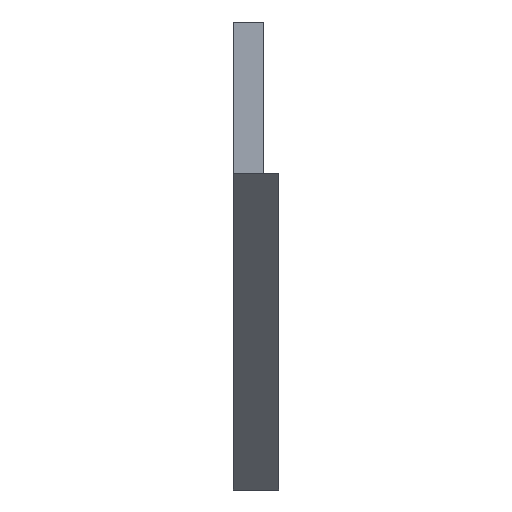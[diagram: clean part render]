
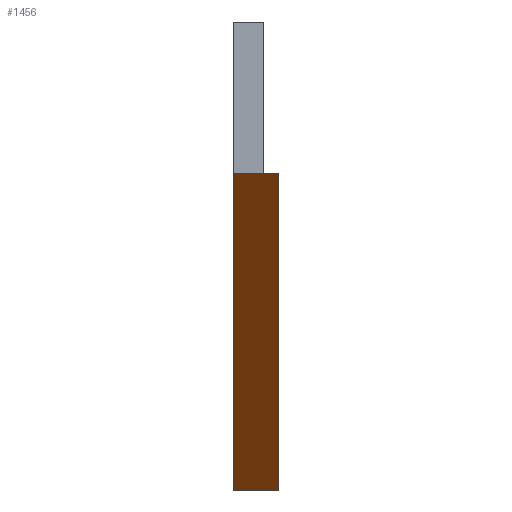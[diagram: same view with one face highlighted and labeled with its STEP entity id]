
A CAD part, front view. The second image highlights one B-rep face of the part: STEP entity #1456.
In plain terms, the highlighted planar face has unit normal (0, -0.719, -0.695).
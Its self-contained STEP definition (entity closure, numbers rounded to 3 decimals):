
#15 = DIRECTION ( 'NONE',  ( 0., -0.695, 0.719 ) ) ;
#112 = CARTESIAN_POINT ( 'NONE',  ( 21., 101.209, -163.776 ) ) ;
#177 = VERTEX_POINT ( 'NONE', #945 ) ;
#345 = VERTEX_POINT ( 'NONE', #1675 ) ;
#355 = DIRECTION ( 'NONE',  ( 0., -0.719, -0.695 ) ) ;
#380 = EDGE_CURVE ( 'NONE', #1694, #177, #1672, .T. ) ;
#415 = CARTESIAN_POINT ( 'NONE',  ( 0., 0., -59. ) ) ;
#425 = ORIENTED_EDGE ( 'NONE', *, *, #1229, .F. ) ;
#529 = VECTOR ( 'NONE', #1681, 1000. ) ;
#556 = DIRECTION ( 'NONE',  ( -1., 0., 0. ) ) ;
#642 = LINE ( 'NONE', #112, #1392 ) ;
#701 = CARTESIAN_POINT ( 'NONE',  ( 0., 0., -59. ) ) ;
#702 = EDGE_CURVE ( 'NONE', #345, #1408, #642, .T. ) ;
#736 = VECTOR ( 'NONE', #15, 1000. ) ;
#817 = VECTOR ( 'NONE', #1513, 1000. ) ;
#945 = CARTESIAN_POINT ( 'NONE',  ( -11., 0., -59. ) ) ;
#972 = VECTOR ( 'NONE', #556, 1000. ) ;
#1032 = VERTEX_POINT ( 'NONE', #1537 ) ;
#1058 = PLANE ( 'NONE',  #1201 ) ;
#1091 = DIRECTION ( 'NONE',  ( -1., 0., 0. ) ) ;
#1096 = LINE ( 'NONE', #1147, #736 ) ;
#1113 = EDGE_CURVE ( 'NONE', #177, #1032, #1283, .T. ) ;
#1147 = CARTESIAN_POINT ( 'NONE',  ( -21., -29.482, -28.479 ) ) ;
#1198 = ORIENTED_EDGE ( 'NONE', *, *, #702, .F. ) ;
#1200 = CARTESIAN_POINT ( 'NONE',  ( 21., -29.482, -28.479 ) ) ;
#1201 = AXIS2_PLACEMENT_3D ( 'NONE', #1200, #355, #1344 ) ;
#1229 = EDGE_CURVE ( 'NONE', #1408, #1032, #1096, .T. ) ;
#1283 = LINE ( 'NONE', #701, #529 ) ;
#1333 = CARTESIAN_POINT ( 'NONE',  ( -21., 101.209, -163.776 ) ) ;
#1344 = DIRECTION ( 'NONE',  ( 0., 0.695, -0.719 ) ) ;
#1383 = EDGE_LOOP ( 'NONE', ( #1198, #1689, #1720, #1748, #425 ) ) ;
#1392 = VECTOR ( 'NONE', #1091, 1000. ) ;
#1408 = VERTEX_POINT ( 'NONE', #1333 ) ;
#1455 = FACE_OUTER_BOUND ( 'NONE', #1383, .T. ) ;
#1456 = ADVANCED_FACE ( 'NONE', ( #1455 ), #1058, .T. ) ;
#1473 = LINE ( 'NONE', #1790, #817 ) ;
#1513 = DIRECTION ( 'NONE',  ( 0., -0.695, 0.719 ) ) ;
#1531 = CARTESIAN_POINT ( 'NONE',  ( -6., 0., -59. ) ) ;
#1537 = CARTESIAN_POINT ( 'NONE',  ( -21., 0., -59. ) ) ;
#1597 = EDGE_CURVE ( 'NONE', #345, #1694, #1473, .T. ) ;
#1672 = LINE ( 'NONE', #415, #972 ) ;
#1675 = CARTESIAN_POINT ( 'NONE',  ( -6., 101.209, -163.776 ) ) ;
#1681 = DIRECTION ( 'NONE',  ( -1., 0., 0. ) ) ;
#1689 = ORIENTED_EDGE ( 'NONE', *, *, #1597, .T. ) ;
#1694 = VERTEX_POINT ( 'NONE', #1531 ) ;
#1720 = ORIENTED_EDGE ( 'NONE', *, *, #380, .T. ) ;
#1748 = ORIENTED_EDGE ( 'NONE', *, *, #1113, .T. ) ;
#1790 = CARTESIAN_POINT ( 'NONE',  ( -6., -29.482, -28.479 ) ) ;
